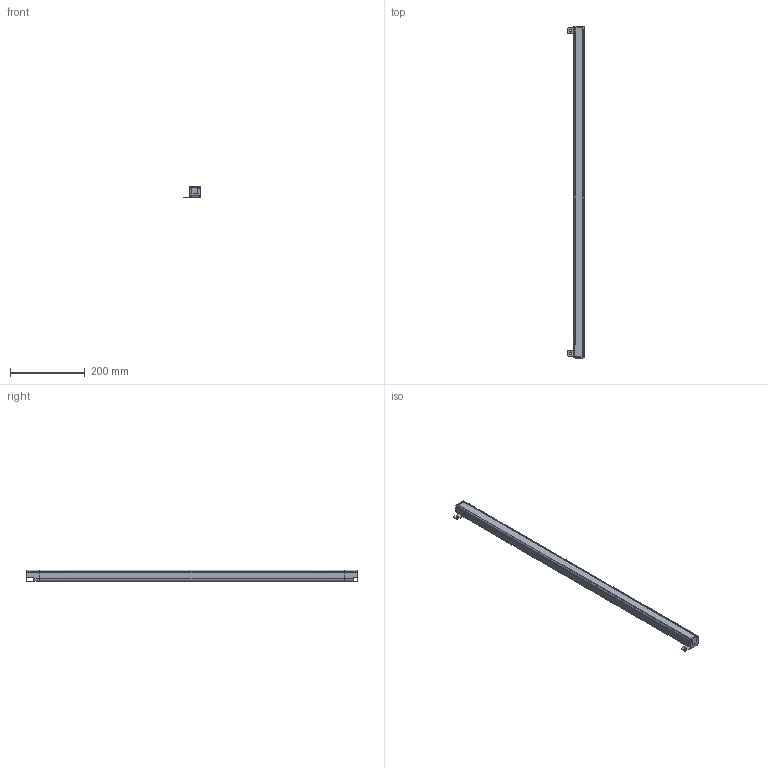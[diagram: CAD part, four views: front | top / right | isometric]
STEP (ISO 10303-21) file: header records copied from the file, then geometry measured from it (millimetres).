
FILE_DESCRIPTION(/* description */ (''),/* implementation_level */ '2;1');
FILE_NAME(/* name */ '2240(30X30).stp',/* time_stamp */ '2020-07-10T20:21:00+08:00',/* author */ (''),/* organization */ (''),/* preprocessor_version */ 'ST-DEVELOPER v16',/* originating_system */ 'SIEMENS PLM Software NX 10.0',/* authorisation */ '');
FILE_SCHEMA (('AP203_CONFIGURATION_CONTROLLED_3D_DESIGN_OF_MECHANICAL_PARTS_AND_ASSEMBLIES_MIM_LF { 1 0 10303 403 2 1 2}'));
Length unit declared in the file: millimetre
Products named in the file (1): Admi58A03253m5op
Bounding box: 44.89 x 888.4 x 31.39 mm (x, y, z)
Volume: 274823.2 mm3; surface area: 293072.6 mm2
Topology: 6 solids, 6 shells, 441 faces, 1311 edges, 871 vertices
Faces by surface type: plane 256, cylinder 132, cone 32, bspline 14, extrusion 7
Full cylindrical faces by diameter (mm): 1.5 x2, 3.2 x8, 3.5 x8
Entity records: 15674 total; most frequent: CARTESIAN_POINT 3867, ORIENTED_EDGE 2528, DIRECTION 2314, EDGE_CURVE 1264, VECTOR 856, VERTEX_POINT 855, LINE 849, AXIS2_PLACEMENT_3D 729
